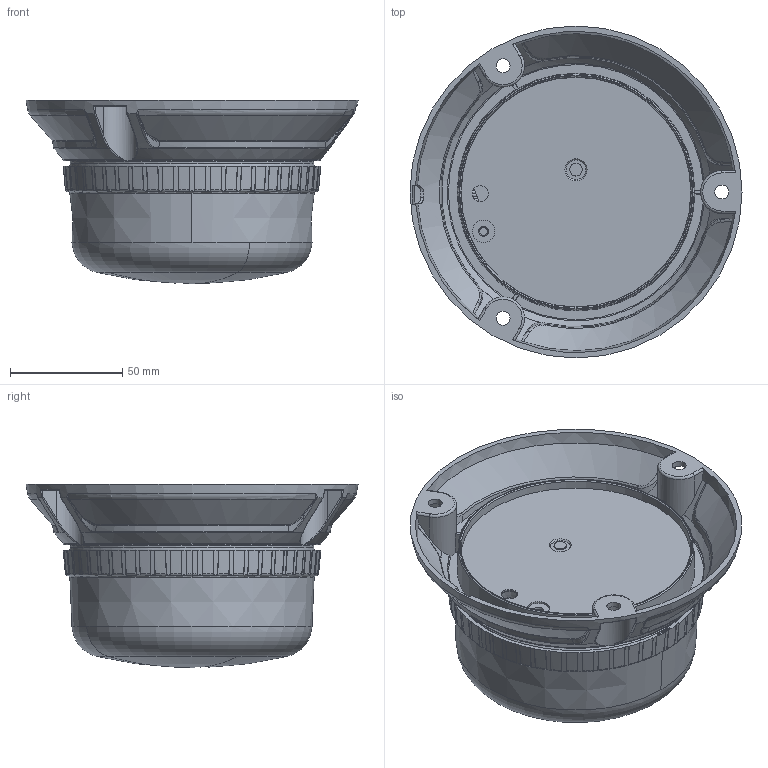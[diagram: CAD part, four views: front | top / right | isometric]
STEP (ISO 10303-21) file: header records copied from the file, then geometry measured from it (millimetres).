
FILE_DESCRIPTION(/* description */ (''),/* implementation_level */ '2;1');
FILE_NAME(/* name */ 'SM812-K底.stp',/* time_stamp */ '2020-07-30T20:51:05+08:00',/* author */ (''),/* organization */ (''),/* preprocessor_version */ 'ST-DEVELOPER v16',/* originating_system */ 'SIEMENS PLM Software NX 10.0',/* authorisation */ '');
FILE_SCHEMA (('AUTOMOTIVE_DESIGN { 1 0 10303 214 3 1 1 1 }'));
Products named in the file (1): SM812-K底
Bounding box: 147.97 x 147.97 x 81.64 mm (x, y, z)
Volume: 127804.8 mm3; surface area: 124262.9 mm2
Topology: 2 solids, 2 shells, 1812 faces, 5022 edges, 3243 vertices
Faces by surface type: revolution 720, plane 343, extrusion 316, cone 189, bspline 146, torus 55, cylinder 28, sphere 15
Full cylindrical faces by diameter (mm): 2.7 x4, 6.2 x3, 7.2 x1, 10 x1, 110.031 x1
Entity records: 89323 total; most frequent: CARTESIAN_POINT 50175, ORIENTED_EDGE 9868, EDGE_CURVE 4934, DIRECTION 4573, B_SPLINE_CURVE_WITH_KNOTS 4186, VERTEX_POINT 3206, EDGE_LOOP 1896, ADVANCED_FACE 1807
